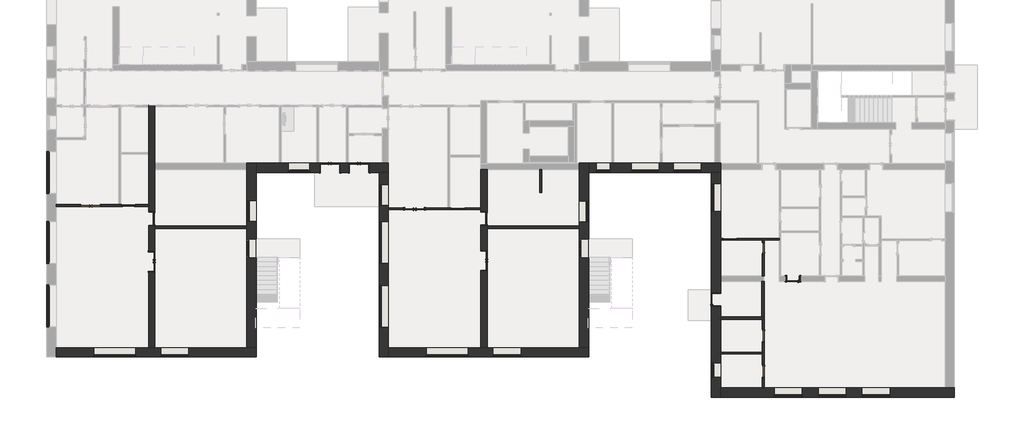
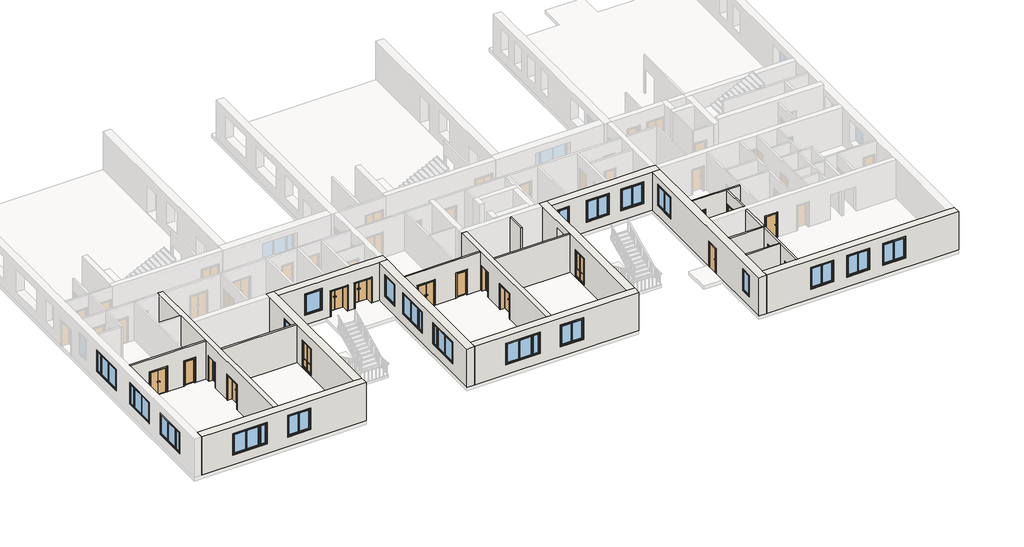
# One storey, part 1 of 10: 22 walls, 21 windows, 18 doors.
"""IFC4 building model written with IfcOpenShell, lengths in millimetres."""

from ifc_helpers import new_model, si_unit, origin, origin_with_axes, place, context, project, spatial, polyline, outline, extrude, faceted_brep, transform, mapped, element, save
from components import door_6ba15531, door_6cda5d05, door_47037448, door_ad1fb5ee, door_53f747c6, door_8eaac61e, door_ebb03b69, door_a4f02d3e, door_fa03cccf, door_70e842ad, door_428ffb38, window_17d24cb2, window_825c4489, window_d8f3b313, window_e44eff39, window_8fb4b093, window_74172d11

model = new_model("IFC4")

# Units and contexts
model_context = context("Model", 3, world=origin())
ifc_project = project(units=[si_unit("LENGTHUNIT", "METRE", prefix="MILLI")], contexts=[model_context])

# Site, building, storey
site = spatial("IfcSite", under=ifc_project)
building = spatial("IfcBuilding", under=site)
storey = spatial("IfcBuildingStorey", under=building, Name="1 этаж", Elevation=0.0)

# Doors
placement = place(None, origin())
door_shape = door_6ba15531(model_context)
element("IfcDoor", 1, ObjectType="Наружная дверь 2-Навесная - Один проем наружу с порогом - 31173-2003 : ДСН ДКН М2 2100-1300 ГОСТ 31173-2003", at=placement, inside=storey, context=model_context, shape_type="MappedRepresentation", body=[
    mapped(door_shape, transform((-9972.3240021, -6142.8629895, 0.0), x_axis=(0.0, 1.0, 0.0), y_axis=(-1.0, 0.0, 0.0), z_axis=(0.0, 0.0, 1.0))),
])
element("IfcDoor", 2, ObjectType="Наружная дверь 2-Навесная - Один проем наружу с порогом - 31173-2003 : ДСН ДКН М2 2100-1300 ГОСТ 31173-2003", at=placement, inside=storey, context=model_context, shape_type="MappedRepresentation", body=[
    mapped(door_shape, transform((-31612.3240021, -6185.3629895, 0.0), x_axis=(0.0, 1.0, 0.0), y_axis=(-1.0, 0.0, 0.0), z_axis=(0.0, 0.0, 1.0))),
])
door_2_shape = door_6cda5d05(model_context)
element("IfcDoor", 3, ObjectType="Наружная дверь 2-Навесная - Один проем наружу с порогом - 31173-2003 : ДСН ДКН М2 2100-1300 ГОСТ 31173-2003", at=placement, inside=storey, context=model_context, shape_type="MappedRepresentation", body=[
    mapped(door_2_shape, transform((-14497.3240021, -2742.8629895, 0.0), x_axis=(1.0, 0.0, 0.0), y_axis=(0.0, 1.0, 0.0), z_axis=(0.0, 0.0, 1.0))),
])
element("IfcDoor", 4, ObjectType="Наружная дверь 2-Навесная - Один проем наружу с порогом - 31173-2003 : ДСН ДКН М2 2100-1300 ГОСТ 31173-2003", at=placement, inside=storey, context=model_context, shape_type="MappedRepresentation", body=[
    mapped(door_2_shape, transform((-35599.8240021, -2532.8629895, 0.0), x_axis=(1.0, 0.0, 0.0), y_axis=(0.0, 1.0, 0.0), z_axis=(0.0, 0.0, 1.0))),
])
door_3_shape = door_47037448(model_context)
element("IfcDoor", 5, ObjectType="Наружная дверь 2-Навесная - Один проем наружу с порогом - 31173-2003 : ДСН ДКН М2 2100-1300 ГОСТ 31173-2003", at=placement, inside=storey, context=model_context, shape_type="MappedRepresentation", body=[
    mapped(door_3_shape, transform((-19994.7740021, -80.3629895, 0.0), x_axis=(-1.0, 0.0, 0.0), y_axis=(0.0, -1.0, 0.0), z_axis=(0.0, 0.0, 1.0))),
])
element("IfcDoor", 6, ObjectType="Наружная дверь 2-Навесная - Один проем наружу с порогом - 31173-2003 : ДСН ДКН М2 2100-1300 ГОСТ 31173-2003", at=placement, inside=storey, context=model_context, shape_type="MappedRepresentation", body=[
    mapped(door_3_shape, transform((-18094.8240021, -80.3629895, 0.0), x_axis=(-1.0, 0.0, 0.0), y_axis=(0.0, -1.0, 0.0), z_axis=(0.0, 0.0, 1.0))),
])
door_4_shape = door_ad1fb5ee(model_context)
element("IfcDoor", 7, ObjectType="Внутренняя дверь 1-Навесная - 30970-2002 : ДПВ Г Б Пр 2100-870 ГОСТ 30970-2002", at=placement, inside=storey, context=model_context, shape_type="MappedRepresentation", body=[
    mapped(door_4_shape, transform((-11659.8240021, -2733.8629895, 0.0), x_axis=(-1.0, 0.0, 0.0), y_axis=(0.0, -1.0, 0.0), z_axis=(0.0, 0.0, 1.0))),
])
element("IfcDoor", 8, ObjectType="Внутренняя дверь 1-Навесная - 30970-2002 : ДПВ Г Б Пр 2100-870 ГОСТ 30970-2002", at=placement, inside=storey, context=model_context, shape_type="MappedRepresentation", body=[
    mapped(door_4_shape, transform((-33119.8240021, -2523.8629895, 0.0), x_axis=(-1.0, 0.0, 0.0), y_axis=(0.0, -1.0, 0.0), z_axis=(0.0, 0.0, 1.0))),
])
door_5_shape = door_53f747c6(model_context)
element("IfcDoor", 9, ObjectType="Внутренняя дверь 1-Навесная - 30970-2002 : ДПВ Г Б Л 2100-870 ГОСТ 30970-2002", at=placement, inside=storey, context=model_context, shape_type="MappedRepresentation", body=[
    mapped(door_5_shape, transform((-9981.3240021, -3382.8629895, 0.0), x_axis=(0.0, -1.0, 0.0), y_axis=(1.0, 0.0, 0.0), z_axis=(0.0, 0.0, 1.0))),
])
element("IfcDoor", 10, ObjectType="Внутренняя дверь 1-Навесная - 30970-2002 : ДПВ Г Б Л 2100-870 ГОСТ 30970-2002", at=placement, inside=storey, context=model_context, shape_type="MappedRepresentation", body=[
    mapped(door_5_shape, transform((-31621.3240021, -3385.3629895, 0.0), x_axis=(0.0, -1.0, 0.0), y_axis=(1.0, 0.0, 0.0), z_axis=(0.0, 0.0, 1.0))),
])
door_6_shape = door_8eaac61e(model_context)
element("IfcDoor", 11, ObjectType="Внутренняя дверь 1-Навесная - 30970-2002 : ДПВ Г Б Пр 2100-870 ГОСТ 30970-2002", at=placement, inside=storey, context=model_context, shape_type="MappedRepresentation", body=[
    mapped(door_6_shape, transform((6042.6759979, -4736.3629895, 0.0), x_axis=(-1.0, 0.0, 0.0), y_axis=(0.0, -1.0, 0.0), z_axis=(0.0, 0.0, 1.0))),
])
door_7_shape = door_ebb03b69(model_context)
element("IfcDoor", 12, ObjectType="Внутренняя дверь 1-Навесная - 6629-88 : ДГ 21-9  ГОСТ 6629-88", at=placement, inside=storey, context=model_context, shape_type="MappedRepresentation", body=[
    mapped(door_7_shape, transform((10157.6759979, -7305.3629895, 0.0), x_axis=(-1.0, 0.0, 0.0), y_axis=(0.0, -1.0, 0.0), z_axis=(0.0, 0.0, 1.0))),
])
door_8_shape = door_a4f02d3e(model_context)
element("IfcDoor", 13, ObjectType="Внутренняя дверь 1-Навесная - 6629-88 : ДГ 21-8  ГОСТ 6629-88", at=placement, inside=storey, context=model_context, shape_type="MappedRepresentation", body=[
    mapped(door_8_shape, transform((8217.6759979, -5325.3629895, 0.0), x_axis=(0.0, 1.0, 0.0), y_axis=(-1.0, 0.0, 0.0), z_axis=(0.0, 0.0, 1.0))),
])
door_9_shape = door_fa03cccf(model_context)
element("IfcDoor", 14, ObjectType="Внутренняя дверь 1-Навесная - 6629-88 : ДГ 21-9Л  ГОСТ 6629-88", at=placement, inside=storey, context=model_context, shape_type="MappedRepresentation", body=[
    mapped(door_9_shape, transform((5142.6759979, -8670.3629895, 0.0), x_axis=(0.0, -1.0, 0.0), y_axis=(1.0, 0.0, 0.0), z_axis=(0.0, 0.0, 1.0))),
])
door_10_shape = door_70e842ad(model_context)
element("IfcDoor", 15, ObjectType="Внутренняя дверь 1-Навесная - 6629-88 : ДГ 21-9Л  ГОСТ 6629-88", at=placement, inside=storey, context=model_context, shape_type="MappedRepresentation", body=[
    mapped(door_10_shape, transform((8217.6759979, -11017.8629895, 0.0), x_axis=(0.0, 1.0, 0.0), y_axis=(-1.0, 0.0, 0.0), z_axis=(0.0, 0.0, 1.0))),
])
element("IfcDoor", 16, ObjectType="Внутренняя дверь 1-Навесная - 6629-88 : ДГ 21-9Л  ГОСТ 6629-88", at=placement, inside=storey, context=model_context, shape_type="MappedRepresentation", body=[
    mapped(door_10_shape, transform((8217.6759979, -13325.3629895, 0.0), x_axis=(0.0, 1.0, 0.0), y_axis=(-1.0, 0.0, 0.0), z_axis=(0.0, 0.0, 1.0))),
])
door_11_shape = door_428ffb38(model_context)
element("IfcDoor", 17, ObjectType="Балконная дверь 2-Распашная - Сдвоенные переплеты с остеклением - 11214-2003 : БД СП Д1 2175-1174-94 ГОСТ 11214-2003", at=placement, inside=storey, context=model_context, shape_type="MappedRepresentation", body=[
    mapped(door_11_shape, transform((-25107.3240021, -5340.3629895, 0.0), x_axis=(0.0, 1.0, 0.0), y_axis=(-1.0, 0.0, 0.0), z_axis=(0.0, 0.0, 1.0))),
])
element("IfcDoor", 18, ObjectType="Балконная дверь 2-Распашная - Сдвоенные переплеты с остеклением - 11214-2003 : БД СП Д1 2175-1174-94 ГОСТ 11214-2003", at=placement, inside=storey, context=model_context, shape_type="MappedRepresentation", body=[
    mapped(door_11_shape, transform((-3467.3240021, -5342.8629895, 0.0), x_axis=(0.0, 1.0, 0.0), y_axis=(-1.0, 0.0, 0.0), z_axis=(0.0, 0.0, 1.0))),
])

# Walls
element("IfcWall", 19, ObjectType="ADSK_Внутренняя_Кирпич_610", at=placement, inside=storey, context=model_context, shape_type="Brep", body=[
    faceted_brep([(-37832.3240021, -12415.3629895, 0.0), (-24802.3240021, -12415.3629895, 0.0), (-24802.3240021, -12415.3629895, 3200.0), (-35377.3240021, -12415.3629895, 3200.0), (-37832.3240021, -12415.3629895, 3200.0), (-32647.3240021, -12415.3629895, 800.0), (-35377.3240021, -12415.3629895, 800.0), (-35377.3240021, -12415.3629895, 2620.0), (-32647.3240021, -12415.3629895, 2620.0), (-29197.3240021, -12415.3629895, 800.0), (-31027.3240021, -12415.3629895, 800.0), (-31027.3240021, -12415.3629895, 2620.0), (-29197.3240021, -12415.3629895, 2620.0), (-37832.3240021, -11805.3629895, 0.0), (-37832.3240021, -11805.3629895, 3200.0), (-31812.3240021, -11805.3629895, 3200.0), (-31412.3240021, -11805.3629895, 3200.0), (-25412.3240021, -11805.3629895, 3200.0), (-24802.3240021, -11805.3629895, 3200.0), (-24802.3240021, -11805.3629895, 0.0), (-25412.3240021, -11805.3629895, 0.0), (-31412.3240021, -11805.3629895, 0.0), (-31812.3240021, -11805.3629895, 0.0), (-32647.3240021, -11805.3629895, 800.0), (-32647.3240021, -11805.3629895, 2620.0), (-35377.3240021, -11805.3629895, 2620.0), (-35377.3240021, -11805.3629895, 800.0), (-29197.3240021, -11805.3629895, 800.0), (-29197.3240021, -11805.3629895, 2620.0), (-31027.3240021, -11805.3629895, 2620.0), (-31027.3240021, -11805.3629895, 800.0)], [[[0, 1, 2, 3, 4], [5, 6, 7, 8], [9, 10, 11, 12]], [[13, 14, 15, 16, 17, 18, 19, 20, 21, 22], [23, 24, 25, 26], [27, 28, 29, 30]], [[1, 0, 13, 22, 21, 20, 19]], [[0, 4, 14, 13]], [[2, 1, 19, 18]], [[24, 23, 5, 8]], [[25, 24, 8, 7]], [[26, 25, 7, 6]], [[23, 26, 6, 5]], [[28, 27, 9, 12]], [[29, 28, 12, 11]], [[30, 29, 11, 10]], [[27, 30, 10, 9]], [[4, 3, 2, 18, 17, 16, 15, 14]]]),
])
element("IfcWall", 20, ObjectType="ADSK_Внутренняя_Кирпич_610", at=placement, inside=storey, context=model_context, shape_type="Brep", body=[
    faceted_brep([(-24802.3240021, -11805.3629895, 0.0), (-24802.3240021, -385.3629895, 0.0), (-24802.3240021, 224.6370105, 0.0), (-24802.3240021, 224.6370105, 3200.0), (-24802.3240021, -385.3629895, 3200.0), (-24802.3240021, -11805.3629895, 3200.0), (-24802.3240021, -3590.3629895, 800.0), (-24802.3240021, -3590.3629895, 2620.0), (-24802.3240021, -2210.3629895, 2620.0), (-24802.3240021, -2210.3629895, 800.0), (-24802.3240021, -5957.3629895, 100.0), (-24802.3240021, -5957.3629895, 2335.0), (-24802.3240021, -4723.3629895, 2335.0), (-24802.3240021, -4723.3629895, 100.0), (-25412.3240021, -11805.3629895, 0.0), (-25412.3240021, -11805.3629895, 3200.0), (-25412.3240021, -195.3629895, 3200.0), (-25412.3240021, 224.6370105, 3200.0), (-25412.3240021, 224.6370105, 0.0), (-25412.3240021, -195.3629895, 0.0), (-25412.3240021, -3590.3629895, 800.0), (-25412.3240021, -2210.3629895, 800.0), (-25412.3240021, -2210.3629895, 2620.0), (-25412.3240021, -3590.3629895, 2620.0), (-25412.3240021, -5957.3629895, 100.0), (-25412.3240021, -4723.3629895, 100.0), (-25412.3240021, -4723.3629895, 2335.0), (-25412.3240021, -5957.3629895, 2335.0)], [[[0, 1, 2, 3, 4, 5], [6, 7, 8, 9], [10, 11, 12, 13]], [[14, 15, 16, 17, 18, 19], [20, 21, 22, 23], [24, 25, 26, 27]], [[2, 1, 0, 14, 19, 18]], [[0, 5, 15, 14]], [[3, 2, 18, 17]], [[7, 6, 20, 23]], [[8, 7, 23, 22]], [[9, 8, 22, 21]], [[6, 9, 21, 20]], [[11, 10, 24, 27]], [[12, 11, 27, 26]], [[13, 12, 26, 25]], [[10, 13, 25, 24]], [[5, 4, 3, 17, 16, 15]]]),
])
element("IfcWall", 21, ObjectType="ADSK_Внутренняя_Кирпич_610", at=placement, inside=storey, context=model_context, shape_type="Brep", body=[
    faceted_brep([(-24802.3240021, -385.3629895, 3200.0), (-24802.3240021, -385.3629895, 0.0), (-20664.7740021, -385.3629895, 0.0), (-20664.7740021, -385.3629895, 2120.0), (-19324.7740021, -385.3629895, 2120.0), (-19324.7740021, -385.3629895, 0.0), (-18764.8240021, -385.3629895, 0.0), (-18764.8240021, -385.3629895, 2120.0), (-17424.8240021, -385.3629895, 2120.0), (-17424.8240021, -385.3629895, 0.0), (-16802.3240021, -385.3629895, 0.0), (-16192.3240021, -385.3629895, 0.0), (-16192.3240021, -385.3629895, 3200.0), (-16802.3240021, -385.3629895, 3200.0), (-22704.7990021, -385.3629895, 800.0), (-22704.7990021, -385.3629895, 2620.0), (-21324.7990021, -385.3629895, 2620.0), (-21324.7990021, -385.3629895, 800.0), (-24802.3240021, 224.6370105, 3200.0), (-23297.3240021, 224.6370105, 3200.0), (-23172.3240021, 224.6370105, 3200.0), (-20857.2740021, 224.6370105, 3200.0), (-20732.2740021, 224.6370105, 3200.0), (-18937.3240021, 224.6370105, 3200.0), (-18812.3240021, 224.6370105, 3200.0), (-16592.3240021, 224.6370105, 3200.0), (-16192.3240021, 224.6370105, 3200.0), (-16192.3240021, 224.6370105, 0.0), (-16592.3240021, 224.6370105, 0.0), (-17424.8240021, 224.6370105, 0.0), (-17424.8240021, 224.6370105, 2120.0), (-18764.8240021, 224.6370105, 2120.0), (-18764.8240021, 224.6370105, 0.0), (-18812.3240021, 224.6370105, 0.0), (-18937.3240021, 224.6370105, 0.0), (-19324.7740021, 224.6370105, 0.0), (-19324.7740021, 224.6370105, 2120.0), (-20664.7740021, 224.6370105, 2120.0), (-20664.7740021, 224.6370105, 0.0), (-20732.2740021, 224.6370105, 0.0), (-20857.2740021, 224.6370105, 0.0), (-23172.3240021, 224.6370105, 0.0), (-23297.3240021, 224.6370105, 0.0), (-24802.3240021, 224.6370105, 0.0), (-22704.7990021, 224.6370105, 800.0), (-21324.7990021, 224.6370105, 800.0), (-21324.7990021, 224.6370105, 2620.0), (-22704.7990021, 224.6370105, 2620.0)], [[[0, 1, 2, 3, 4, 5, 6, 7, 8, 9, 10, 11, 12, 13], [14, 15, 16, 17]], [[18, 19, 20, 21, 22, 23, 24, 25, 26, 27, 28, 29, 30, 31, 32, 33, 34, 35, 36, 37, 38, 39, 40, 41, 42, 43], [44, 45, 46, 47]], [[1, 43, 42, 41, 40, 39, 38, 2]], [[27, 11, 10, 9, 29, 28]], [[5, 35, 34, 33, 32, 6]], [[1, 0, 18, 43]], [[12, 11, 27, 26]], [[37, 3, 2, 38]], [[3, 37, 36, 4]], [[4, 36, 35, 5]], [[31, 7, 6, 32]], [[7, 31, 30, 8]], [[8, 30, 29, 9]], [[15, 14, 44, 47]], [[16, 15, 47, 46]], [[17, 16, 46, 45]], [[14, 17, 45, 44]], [[26, 25, 24, 23, 22, 21, 20, 19, 18, 0, 13, 12]]]),
])
element("IfcWall", 22, ObjectType="ADSK_Внутренняя_Кирпич_610", at=placement, inside=storey, context=model_context, shape_type="Brep", body=[
    faceted_brep([(-16802.3240021, -385.3629895, 0.0), (-16802.3240021, -12415.3629895, 0.0), (-16802.3240021, -12415.3629895, 3200.0), (-16802.3240021, -385.3629895, 3200.0), (-16802.3240021, -7745.3629895, 800.0), (-16802.3240021, -7745.3629895, 2620.0), (-16802.3240021, -10475.3629895, 2620.0), (-16802.3240021, -10475.3629895, 800.0), (-16802.3240021, -6307.8629895, 800.0), (-16802.3240021, -3577.8629895, 800.0), (-16802.3240021, -3577.8629895, 2620.0), (-16802.3240021, -6307.8629895, 2620.0), (-16802.3240021, -2532.8629895, 800.0), (-16802.3240021, -1152.8629895, 800.0), (-16802.3240021, -1152.8629895, 2620.0), (-16802.3240021, -2532.8629895, 2620.0), (-16192.3240021, -385.3629895, 0.0), (-16192.3240021, -385.3629895, 3200.0), (-16192.3240021, -2680.3629895, 3200.0), (-16192.3240021, -2805.3629895, 3200.0), (-16192.3240021, -11805.3629895, 3200.0), (-16192.3240021, -12415.3629895, 3200.0), (-16192.3240021, -12415.3629895, 0.0), (-16192.3240021, -11805.3629895, 0.0), (-16192.3240021, -2805.3629895, 0.0), (-16192.3240021, -2680.3629895, 0.0), (-16192.3240021, -7745.3629895, 800.0), (-16192.3240021, -10475.3629895, 800.0), (-16192.3240021, -10475.3629895, 2620.0), (-16192.3240021, -7745.3629895, 2620.0), (-16192.3240021, -6307.8629895, 800.0), (-16192.3240021, -6307.8629895, 2620.0), (-16192.3240021, -3577.8629895, 2620.0), (-16192.3240021, -3577.8629895, 800.0), (-16192.3240021, -2532.8629895, 800.0), (-16192.3240021, -2532.8629895, 2620.0), (-16192.3240021, -1152.8629895, 2620.0), (-16192.3240021, -1152.8629895, 800.0)], [[[0, 1, 2, 3], [4, 5, 6, 7], [8, 9, 10, 11], [12, 13, 14, 15]], [[16, 17, 18, 19, 20, 21, 22, 23, 24, 25], [26, 27, 28, 29], [30, 31, 32, 33], [34, 35, 36, 37]], [[1, 0, 16, 25, 24, 23, 22]], [[0, 3, 17, 16]], [[2, 1, 22, 21]], [[5, 4, 26, 29]], [[6, 5, 29, 28]], [[7, 6, 28, 27]], [[4, 7, 27, 26]], [[31, 30, 8, 11]], [[32, 31, 11, 10]], [[33, 32, 10, 9]], [[30, 33, 9, 8]], [[35, 34, 12, 15]], [[36, 35, 15, 14]], [[37, 36, 14, 13]], [[34, 37, 13, 12]], [[3, 2, 21, 20, 19, 18, 17]]]),
])
element("IfcWall", 23, ObjectType="ADSK_Внутренняя_Кирпич_610", at=placement, inside=storey, context=model_context, shape_type="Brep", body=[
    faceted_brep([(-16192.3240021, -12415.3629895, 0.0), (-3162.3240021, -12415.3629895, 0.0), (-3162.3240021, -12415.3629895, 3200.0), (-16192.3240021, -12415.3629895, 3200.0), (-11007.3240021, -12415.3629895, 800.0), (-13737.3240021, -12415.3629895, 800.0), (-13737.3240021, -12415.3629895, 2620.0), (-11007.3240021, -12415.3629895, 2620.0), (-7557.3240021, -12415.3629895, 800.0), (-9387.3240021, -12415.3629895, 800.0), (-9387.3240021, -12415.3629895, 2620.0), (-7557.3240021, -12415.3629895, 2620.0), (-16192.3240021, -11805.3629895, 0.0), (-16192.3240021, -11805.3629895, 3200.0), (-10172.3240021, -11805.3629895, 3200.0), (-9772.3240021, -11805.3629895, 3200.0), (-3772.3240021, -11805.3629895, 3200.0), (-3162.3240021, -11805.3629895, 3200.0), (-3162.3240021, -11805.3629895, 0.0), (-3772.3240021, -11805.3629895, 0.0), (-9772.3240021, -11805.3629895, 0.0), (-10172.3240021, -11805.3629895, 0.0), (-11007.3240021, -11805.3629895, 800.0), (-11007.3240021, -11805.3629895, 2620.0), (-13737.3240021, -11805.3629895, 2620.0), (-13737.3240021, -11805.3629895, 800.0), (-7557.3240021, -11805.3629895, 800.0), (-7557.3240021, -11805.3629895, 2620.0), (-9387.3240021, -11805.3629895, 2620.0), (-9387.3240021, -11805.3629895, 800.0)], [[[0, 1, 2, 3], [4, 5, 6, 7], [8, 9, 10, 11]], [[12, 13, 14, 15, 16, 17, 18, 19, 20, 21], [22, 23, 24, 25], [26, 27, 28, 29]], [[1, 0, 12, 21, 20, 19, 18]], [[0, 3, 13, 12]], [[2, 1, 18, 17]], [[23, 22, 4, 7]], [[24, 23, 7, 6]], [[25, 24, 6, 5]], [[22, 25, 5, 4]], [[27, 26, 8, 11]], [[28, 27, 11, 10]], [[29, 28, 10, 9]], [[26, 29, 9, 8]], [[3, 2, 17, 16, 15, 14, 13]]]),
])
element("IfcWall", 24, ObjectType="ADSK_Внутренняя_Кирпич_610", at=placement, inside=storey, context=model_context, shape_type="Brep", body=[
    faceted_brep([(-3162.3240021, -11805.3629895, 0.0), (-3162.3240021, -385.3629895, 0.0), (-3162.3240021, 224.6370105, 0.0), (-3162.3240021, 224.6370105, 3200.0), (-3162.3240021, -385.3629895, 3200.0), (-3162.3240021, -11805.3629895, 3200.0), (-3162.3240021, -3612.8629895, 800.0), (-3162.3240021, -3612.8629895, 2620.0), (-3162.3240021, -2232.8629895, 2620.0), (-3162.3240021, -2232.8629895, 800.0), (-3162.3240021, -5959.8629895, 100.0), (-3162.3240021, -5959.8629895, 2335.0), (-3162.3240021, -4725.8629895, 2335.0), (-3162.3240021, -4725.8629895, 100.0), (-3772.3240021, -11805.3629895, 0.0), (-3772.3240021, -11805.3629895, 3200.0), (-3772.3240021, -4015.3629895, 3200.0), (-3772.3240021, -3870.3629895, 3200.0), (-3772.3240021, -195.3629895, 3200.0), (-3772.3240021, 204.6370105, 3200.0), (-3772.3240021, 224.6370105, 3200.0), (-3772.3240021, 224.6370105, 0.0), (-3772.3240021, 204.6370105, 0.0), (-3772.3240021, -195.3629895, 0.0), (-3772.3240021, -3870.3629895, 0.0), (-3772.3240021, -4015.3629895, 0.0), (-3772.3240021, -3612.8629895, 800.0), (-3772.3240021, -2232.8629895, 800.0), (-3772.3240021, -2232.8629895, 2620.0), (-3772.3240021, -3612.8629895, 2620.0), (-3772.3240021, -5959.8629895, 100.0), (-3772.3240021, -4725.8629895, 100.0), (-3772.3240021, -4725.8629895, 2335.0), (-3772.3240021, -5959.8629895, 2335.0)], [[[0, 1, 2, 3, 4, 5], [6, 7, 8, 9], [10, 11, 12, 13]], [[14, 15, 16, 17, 18, 19, 20, 21, 22, 23, 24, 25], [26, 27, 28, 29], [30, 31, 32, 33]], [[2, 1, 0, 14, 25, 24, 23, 22, 21]], [[0, 5, 15, 14]], [[3, 2, 21, 20]], [[7, 6, 26, 29]], [[8, 7, 29, 28]], [[9, 8, 28, 27]], [[6, 9, 27, 26]], [[11, 10, 30, 33]], [[12, 11, 33, 32]], [[13, 12, 32, 31]], [[10, 13, 31, 30]], [[5, 4, 3, 20, 19, 18, 17, 16, 15]]]),
])
element("IfcWall", 25, ObjectType="ADSK_Внутренняя_Кирпич_610", at=placement, inside=storey, context=model_context, shape_type="Brep", body=[
    faceted_brep([(-3162.3240021, -385.3629895, 0.0), (4837.6759979, -385.3629895, 0.0), (5447.6759979, -385.3629895, 0.0), (5447.6759979, -385.3629895, 3200.0), (4837.6759979, -385.3629895, 3200.0), (-3162.3240021, -385.3629895, 3200.0), (-2662.3240021, -385.3629895, 800.0), (-2662.3240021, -385.3629895, 2620.0), (-1732.3240021, -385.3629895, 2620.0), (-1732.3240021, -385.3629895, 800.0), (4177.6759979, -385.3629895, 800.0), (2347.6759979, -385.3629895, 800.0), (2347.6759979, -385.3629895, 2620.0), (4177.6759979, -385.3629895, 2620.0), (1437.6759979, -385.3629895, 800.0), (-392.3240021, -385.3629895, 800.0), (-392.3240021, -385.3629895, 2620.0), (1437.6759979, -385.3629895, 2620.0), (-3162.3240021, 224.6370105, 0.0), (-3162.3240021, 224.6370105, 3200.0), (-1639.8240021, 224.6370105, 3200.0), (-1514.8240021, 224.6370105, 3200.0), (1520.1759979, 224.6370105, 3200.0), (1645.1759979, 224.6370105, 3200.0), (5047.6759979, 224.6370105, 3200.0), (5427.6759979, 224.6370105, 3200.0), (5447.6759979, 224.6370105, 3200.0), (5447.6759979, 224.6370105, 0.0), (5427.6759979, 224.6370105, 0.0), (5047.6759979, 224.6370105, 0.0), (1645.1759979, 224.6370105, 0.0), (1520.1759979, 224.6370105, 0.0), (-1514.8240021, 224.6370105, 0.0), (-1639.8240021, 224.6370105, 0.0), (-2662.3240021, 224.6370105, 800.0), (-1732.3240021, 224.6370105, 800.0), (-1732.3240021, 224.6370105, 2620.0), (-2662.3240021, 224.6370105, 2620.0), (4177.6759979, 224.6370105, 800.0), (4177.6759979, 224.6370105, 2620.0), (2347.6759979, 224.6370105, 2620.0), (2347.6759979, 224.6370105, 800.0), (1437.6759979, 224.6370105, 800.0), (1437.6759979, 224.6370105, 2620.0), (-392.3240021, 224.6370105, 2620.0), (-392.3240021, 224.6370105, 800.0), (5447.6759979, 204.6370105, 0.0), (5447.6759979, -175.3629895, 0.0), (5447.6759979, 204.6370105, 3200.0), (5447.6759979, -175.3629895, 3200.0)], [[[0, 1, 2, 3, 4, 5], [6, 7, 8, 9], [10, 11, 12, 13], [14, 15, 16, 17]], [[18, 19, 20, 21, 22, 23, 24, 25, 26, 27, 28, 29, 30, 31, 32, 33], [34, 35, 36, 37], [38, 39, 40, 41], [42, 43, 44, 45]], [[2, 1, 0, 18, 33, 32, 31, 30, 29, 28, 27, 46, 47]], [[0, 5, 19, 18]], [[3, 2, 47, 46, 27, 26, 48, 49]], [[7, 6, 34, 37]], [[8, 7, 37, 36]], [[9, 8, 36, 35]], [[6, 9, 35, 34]], [[39, 38, 10, 13]], [[40, 39, 13, 12]], [[41, 40, 12, 11]], [[38, 41, 11, 10]], [[43, 42, 14, 17]], [[44, 43, 17, 16]], [[45, 44, 16, 15]], [[42, 45, 15, 14]], [[5, 4, 3, 49, 48, 26, 25, 24, 23, 22, 21, 20, 19]]]),
])
element("IfcWall", 26, ObjectType="ADSK_Внутренняя_Кирпич_610", at=placement, inside=storey, context=model_context, shape_type="Brep", body=[
    faceted_brep([(4837.6759979, -385.3629895, 3200.0), (4837.6759979, -385.3629895, 0.0), (4837.6759979, -8215.3629895, 0.0), (4837.6759979, -8215.3629895, 2070.0), (4837.6759979, -9125.3629895, 2070.0), (4837.6759979, -9125.3629895, 0.0), (4837.6759979, -15025.3629895, 0.0), (4837.6759979, -15025.3629895, 3200.0), (4837.6759979, -12800.3629895, 800.0), (4837.6759979, -12800.3629895, 2620.0), (4837.6759979, -13730.3629895, 2620.0), (4837.6759979, -13730.3629895, 800.0), (4837.6759979, -2935.3629895, 800.0), (4837.6759979, -1105.3629895, 800.0), (4837.6759979, -1105.3629895, 2620.0), (4837.6759979, -2935.3629895, 2620.0), (5447.6759979, -385.3629895, 0.0), (5447.6759979, -385.3629895, 3200.0), (5447.6759979, -4695.3629895, 3200.0), (5447.6759979, -4795.3629895, 3200.0), (5447.6759979, -7115.3629895, 3200.0), (5447.6759979, -7495.3629895, 3200.0), (5447.6759979, -9795.3629895, 3200.0), (5447.6759979, -9945.3629895, 3200.0), (5447.6759979, -12115.3629895, 3200.0), (5447.6759979, -12215.3629895, 3200.0), (5447.6759979, -14415.3629895, 3200.0), (5447.6759979, -15025.3629895, 3200.0), (5447.6759979, -15025.3629895, 0.0), (5447.6759979, -14415.3629895, 0.0), (5447.6759979, -12215.3629895, 0.0), (5447.6759979, -12115.3629895, 0.0), (5447.6759979, -9945.3629895, 0.0), (5447.6759979, -9795.3629895, 0.0), (5447.6759979, -9125.3629895, 0.0), (5447.6759979, -9125.3629895, 2070.0), (5447.6759979, -8215.3629895, 2070.0), (5447.6759979, -8215.3629895, 0.0), (5447.6759979, -7495.3629895, 0.0), (5447.6759979, -7115.3629895, 0.0), (5447.6759979, -4795.3629895, 0.0), (5447.6759979, -4695.3629895, 0.0), (5447.6759979, -12800.3629895, 800.0), (5447.6759979, -13730.3629895, 800.0), (5447.6759979, -13730.3629895, 2620.0), (5447.6759979, -12800.3629895, 2620.0), (5447.6759979, -2935.3629895, 800.0), (5447.6759979, -2935.3629895, 2620.0), (5447.6759979, -1105.3629895, 2620.0), (5447.6759979, -1105.3629895, 800.0)], [[[0, 1, 2, 3, 4, 5, 6, 7], [8, 9, 10, 11], [12, 13, 14, 15]], [[16, 17, 18, 19, 20, 21, 22, 23, 24, 25, 26, 27, 28, 29, 30, 31, 32, 33, 34, 35, 36, 37, 38, 39, 40, 41], [42, 43, 44, 45], [46, 47, 48, 49]], [[1, 16, 41, 40, 39, 38, 37, 2]], [[28, 6, 5, 34, 33, 32, 31, 30, 29]], [[1, 0, 17, 16]], [[7, 6, 28, 27]], [[4, 35, 34, 5]], [[35, 4, 3, 36]], [[36, 3, 2, 37]], [[9, 8, 42, 45]], [[10, 9, 45, 44]], [[11, 10, 44, 43]], [[8, 11, 43, 42]], [[47, 46, 12, 15]], [[48, 47, 15, 14]], [[49, 48, 14, 13]], [[46, 49, 13, 12]], [[17, 0, 7, 27, 26, 25, 24, 23, 22, 21, 20, 19, 18]]]),
])
element("IfcWall", 27, ObjectType="ADSK_Внутренняя_Кирпич_610", at=placement, inside=storey, context=model_context, shape_type="Brep", body=[
    faceted_brep([(5447.6759979, -15025.3629895, 0.0), (20667.6759979, -15025.3629895, 0.0), (20667.6759979, -15025.3629895, 3200.0), (5447.6759979, -15025.3629895, 3200.0), (16477.6759979, -15025.3629895, 800.0), (14647.6759979, -15025.3629895, 800.0), (14647.6759979, -15025.3629895, 2620.0), (16477.6759979, -15025.3629895, 2620.0), (13637.6759979, -15025.3629895, 800.0), (11807.6759979, -15025.3629895, 800.0), (11807.6759979, -15025.3629895, 2620.0), (13637.6759979, -15025.3629895, 2620.0), (10772.6759979, -15025.3629895, 800.0), (8942.6759979, -15025.3629895, 800.0), (8942.6759979, -15025.3629895, 2620.0), (10772.6759979, -15025.3629895, 2620.0), (5447.6759979, -14415.3629895, 0.0), (5447.6759979, -14415.3629895, 3200.0), (8167.6759979, -14415.3629895, 3200.0), (8267.6759979, -14415.3629895, 3200.0), (20057.6759979, -14415.3629895, 3200.0), (20667.6759979, -14415.3629895, 3200.0), (20667.6759979, -14415.3629895, 0.0), (20057.6759979, -14415.3629895, 0.0), (8267.6759979, -14415.3629895, 0.0), (8167.6759979, -14415.3629895, 0.0), (16477.6759979, -14415.3629895, 800.0), (16477.6759979, -14415.3629895, 2620.0), (14647.6759979, -14415.3629895, 2620.0), (14647.6759979, -14415.3629895, 800.0), (13637.6759979, -14415.3629895, 800.0), (13637.6759979, -14415.3629895, 2620.0), (11807.6759979, -14415.3629895, 2620.0), (11807.6759979, -14415.3629895, 800.0), (10772.6759979, -14415.3629895, 800.0), (10772.6759979, -14415.3629895, 2620.0), (8942.6759979, -14415.3629895, 2620.0), (8942.6759979, -14415.3629895, 800.0)], [[[0, 1, 2, 3], [4, 5, 6, 7], [8, 9, 10, 11], [12, 13, 14, 15]], [[16, 17, 18, 19, 20, 21, 22, 23, 24, 25], [26, 27, 28, 29], [30, 31, 32, 33], [34, 35, 36, 37]], [[1, 0, 16, 25, 24, 23, 22]], [[0, 3, 17, 16]], [[2, 1, 22, 21]], [[27, 26, 4, 7]], [[28, 27, 7, 6]], [[29, 28, 6, 5]], [[26, 29, 5, 4]], [[31, 30, 8, 11]], [[32, 31, 11, 10]], [[33, 32, 10, 9]], [[30, 33, 9, 8]], [[35, 34, 12, 15]], [[36, 35, 15, 14]], [[37, 36, 14, 13]], [[34, 37, 13, 12]], [[3, 2, 21, 20, 19, 18, 17]]]),
])
element("IfcWall", 28, ObjectType="ADSK_Внутренняя_Кирпич_380+20", at=placement, inside=storey, context=model_context, shape_type="Brep", body=[
    faceted_brep([(-31412.3240021, -11805.3629895, 3200.0), (-31412.3240021, -11805.3629895, 0.0), (-31412.3240021, -6855.3629895, 0.0), (-31412.3240021, -6855.3629895, 2120.0), (-31412.3240021, -5515.3629895, 2120.0), (-31412.3240021, -5515.3629895, 0.0), (-31412.3240021, -3870.3629895, 0.0), (-31412.3240021, -3870.3629895, 2150.0), (-31412.3240021, -2900.3629895, 2150.0), (-31412.3240021, -2900.3629895, 0.0), (-31412.3240021, -195.3629895, 0.0), (-31412.3240021, 224.6370105, 0.0), (-31412.3240021, 3899.6370105, 0.0), (-31412.3240021, 4024.6370105, 0.0), (-31412.3240021, 4024.6370105, 3200.0), (-31412.3240021, 3899.6370105, 3200.0), (-31412.3240021, 224.6370105, 3200.0), (-31412.3240021, -195.3629895, 3200.0), (-31812.3240021, -11805.3629895, 0.0), (-31812.3240021, -11805.3629895, 3200.0), (-31812.3240021, 829.6370105, 3200.0), (-31812.3240021, 929.6370105, 3200.0), (-31812.3240021, 3889.6370105, 3200.0), (-31812.3240021, 4024.6370105, 3200.0), (-31812.3240021, 4024.6370105, 0.0), (-31812.3240021, 3889.6370105, 0.0), (-31812.3240021, 929.6370105, 0.0), (-31812.3240021, 829.6370105, 0.0), (-31812.3240021, -2900.3629895, 0.0), (-31812.3240021, -2900.3629895, 2150.0), (-31812.3240021, -3870.3629895, 2150.0), (-31812.3240021, -3870.3629895, 0.0), (-31812.3240021, -5515.3629895, 0.0), (-31812.3240021, -5515.3629895, 2120.0), (-31812.3240021, -6855.3629895, 2120.0), (-31812.3240021, -6855.3629895, 0.0)], [[[0, 1, 2, 3, 4, 5, 6, 7, 8, 9, 10, 11, 12, 13, 14, 15, 16, 17]], [[18, 19, 20, 21, 22, 23, 24, 25, 26, 27, 28, 29, 30, 31, 32, 33, 34, 35]], [[1, 18, 35, 2]], [[24, 13, 12, 11, 10, 9, 28, 27, 26, 25]], [[31, 6, 5, 32]], [[1, 0, 19, 18]], [[14, 13, 24, 23]], [[30, 7, 6, 31]], [[7, 30, 29, 8]], [[8, 29, 28, 9]], [[4, 33, 32, 5]], [[33, 4, 3, 34]], [[34, 3, 2, 35]], [[0, 17, 16, 15, 14, 23, 22, 21, 20, 19]]]),
])
element("IfcWall", 29, ObjectType="ADSK_Внутренняя_Кирпич_380+20", at=placement, inside=storey, context=model_context, shape_type="Brep", body=[
    faceted_brep([(-10172.3240021, -195.3629895, 3200.0), (-10172.3240021, -195.3629895, 0.0), (-10172.3240021, -2680.3629895, 0.0), (-10172.3240021, -2805.3629895, 0.0), (-10172.3240021, -2897.8629895, 0.0), (-10172.3240021, -2897.8629895, 2150.0), (-10172.3240021, -3867.8629895, 2150.0), (-10172.3240021, -3867.8629895, 0.0), (-10172.3240021, -5472.8629895, 0.0), (-10172.3240021, -5472.8629895, 2120.0), (-10172.3240021, -6812.8629895, 2120.0), (-10172.3240021, -6812.8629895, 0.0), (-10172.3240021, -11805.3629895, 0.0), (-10172.3240021, -11805.3629895, 3200.0), (-10172.3240021, -2805.3629895, 3200.0), (-10172.3240021, -2680.3629895, 3200.0), (-9772.3240021, -195.3629895, 0.0), (-9772.3240021, -195.3629895, 3200.0), (-9772.3240021, -3870.3629895, 3200.0), (-9772.3240021, -4015.3629895, 3200.0), (-9772.3240021, -11805.3629895, 3200.0), (-9772.3240021, -11805.3629895, 0.0), (-9772.3240021, -6812.8629895, 0.0), (-9772.3240021, -6812.8629895, 2120.0), (-9772.3240021, -5472.8629895, 2120.0), (-9772.3240021, -5472.8629895, 0.0), (-9772.3240021, -4015.3629895, 0.0), (-9772.3240021, -3870.3629895, 0.0), (-9772.3240021, -3867.8629895, 0.0), (-9772.3240021, -3867.8629895, 2150.0), (-9772.3240021, -2897.8629895, 2150.0), (-9772.3240021, -2897.8629895, 0.0)], [[[0, 1, 2, 3, 4, 5, 6, 7, 8, 9, 10, 11, 12, 13, 14, 15]], [[16, 17, 18, 19, 20, 21, 22, 23, 24, 25, 26, 27, 28, 29, 30, 31]], [[1, 16, 31, 4, 3, 2]], [[21, 12, 11, 22]], [[25, 8, 7, 28, 27, 26]], [[1, 0, 17, 16]], [[13, 12, 21, 20]], [[24, 9, 8, 25]], [[9, 24, 23, 10]], [[10, 23, 22, 11]], [[6, 29, 28, 7]], [[29, 6, 5, 30]], [[30, 5, 4, 31]], [[0, 15, 14, 13, 20, 19, 18, 17]]]),
])
element("IfcWall", 30, ObjectType="ADSK_Внутренняя_Перегородка_125+10х2", at=placement, inside=storey, context=model_context, shape_type="SweptSolid", body=[
    extrude(outline(polyline([(-31412.3240021, -3870.3629895), (-25412.3240021, -3870.3629895), (-25412.3240021, -4015.3629895), (-31412.3240021, -4015.3629895), (-31412.3240021, -3870.3629895)])), origin_with_axes(), (0.0, 0.0, 1.0), 3200.0),
])
element("IfcWall", 31, ObjectType="ADSK_Внутренняя_Перегородка_25_75_25", at=placement, inside=storey, context=model_context, shape_type="Brep", body=[
    faceted_brep([(-31812.3240021, -2595.3629895, 0.0), (-31812.3240021, -2595.3629895, 3200.0), (-37832.3240021, -2595.3629895, 3200.0), (-37832.3240021, -2595.3629895, 0.0), (-36269.8240021, -2595.3629895, 0.0), (-36269.8240021, -2595.3629895, 2120.0), (-34929.8240021, -2595.3629895, 2120.0), (-34929.8240021, -2595.3629895, 0.0), (-33604.8240021, -2595.3629895, 0.0), (-33604.8240021, -2595.3629895, 2150.0), (-32634.8240021, -2595.3629895, 2150.0), (-32634.8240021, -2595.3629895, 0.0), (-31812.3240021, -2470.3629895, 3200.0), (-31812.3240021, -2470.3629895, 0.0), (-32634.8240021, -2470.3629895, 0.0), (-32634.8240021, -2470.3629895, 2150.0), (-33604.8240021, -2470.3629895, 2150.0), (-33604.8240021, -2470.3629895, 0.0), (-33632.3240021, -2470.3629895, 0.0), (-33767.3240021, -2470.3629895, 0.0), (-34929.8240021, -2470.3629895, 0.0), (-34929.8240021, -2470.3629895, 2120.0), (-36269.8240021, -2470.3629895, 2120.0), (-36269.8240021, -2470.3629895, 0.0), (-37832.3240021, -2470.3629895, 0.0), (-37832.3240021, -2470.3629895, 3200.0), (-33767.3240021, -2470.3629895, 3200.0), (-33632.3240021, -2470.3629895, 3200.0)], [[[0, 1, 2, 3, 4, 5, 6, 7, 8, 9, 10, 11]], [[12, 13, 14, 15, 16, 17, 18, 19, 20, 21, 22, 23, 24, 25, 26, 27]], [[13, 0, 11, 14]], [[3, 24, 23, 4]], [[17, 8, 7, 20, 19, 18]], [[1, 0, 13, 12]], [[3, 2, 25, 24]], [[16, 9, 8, 17]], [[9, 16, 15, 10]], [[10, 15, 14, 11]], [[6, 21, 20, 7]], [[21, 6, 5, 22]], [[22, 5, 4, 23]], [[2, 1, 12, 27, 26, 25]]]),
])
element("IfcWall", 32, ObjectType="ADSK_Внутренняя_Перегородка_25_75_25", at=placement, inside=storey, context=model_context, shape_type="Brep", body=[
    faceted_brep([(-16192.3240021, -2680.3629895, 0.0), (-16192.3240021, -2680.3629895, 3200.0), (-12322.3240021, -2680.3629895, 3200.0), (-12197.3240021, -2680.3629895, 3200.0), (-10172.3240021, -2680.3629895, 3200.0), (-10172.3240021, -2680.3629895, 0.0), (-11174.8240021, -2680.3629895, 0.0), (-11174.8240021, -2680.3629895, 2150.0), (-12144.8240021, -2680.3629895, 2150.0), (-12144.8240021, -2680.3629895, 0.0), (-12197.3240021, -2680.3629895, 0.0), (-12322.3240021, -2680.3629895, 0.0), (-13827.3240021, -2680.3629895, 0.0), (-13827.3240021, -2680.3629895, 2120.0), (-15167.3240021, -2680.3629895, 2120.0), (-15167.3240021, -2680.3629895, 0.0), (-16192.3240021, -2805.3629895, 3200.0), (-16192.3240021, -2805.3629895, 0.0), (-15167.3240021, -2805.3629895, 0.0), (-15167.3240021, -2805.3629895, 2120.0), (-13827.3240021, -2805.3629895, 2120.0), (-13827.3240021, -2805.3629895, 0.0), (-12144.8240021, -2805.3629895, 0.0), (-12144.8240021, -2805.3629895, 2150.0), (-11174.8240021, -2805.3629895, 2150.0), (-11174.8240021, -2805.3629895, 0.0), (-10172.3240021, -2805.3629895, 0.0), (-10172.3240021, -2805.3629895, 3200.0)], [[[0, 1, 2, 3, 4, 5, 6, 7, 8, 9, 10, 11, 12, 13, 14, 15]], [[16, 17, 18, 19, 20, 21, 22, 23, 24, 25, 26, 27]], [[17, 0, 15, 18]], [[5, 26, 25, 6]], [[21, 12, 11, 10, 9, 22]], [[1, 0, 17, 16]], [[5, 4, 27, 26]], [[20, 13, 12, 21]], [[13, 20, 19, 14]], [[14, 19, 18, 15]], [[8, 23, 22, 9]], [[23, 8, 7, 24]], [[24, 7, 6, 25]], [[4, 3, 2, 1, 16, 27]]]),
])
element("IfcWall", 33, ObjectType="ADSK_Внутренняя_Перегородка_125+10х2", at=placement, inside=storey, context=model_context, shape_type="SweptSolid", body=[
    extrude(outline(polyline([(-3772.3240021, -4015.3629895), (-9772.3240021, -4015.3629895), (-9772.3240021, -3870.3629895), (-3772.3240021, -3870.3629895), (-3772.3240021, -4015.3629895)])), origin_with_axes(), (0.0, 0.0, 1.0), 3200.0),
])
element("IfcWall", 34, ObjectType="ADSK_Внутренняя_Перегородка_25_75_25", at=placement, inside=storey, context=model_context, shape_type="SweptSolid", body=[
    extrude(outline(polyline([(-6344.7740021, -1695.378097), (-6344.7740021, -195.3629895), (-6219.7740021, -195.3629895), (-6219.7740021, -1695.378097), (-6344.7740021, -1695.378097)])), origin_with_axes(), (0.0, 0.0, 1.0), 3200.0),
])
element("IfcWall", 35, ObjectType="ADSK_Внутренняя_Перегородка_100", at=placement, inside=storey, context=model_context, shape_type="Brep", body=[
    faceted_brep([(5447.6759979, -4695.3629895, 0.0), (5447.6759979, -4695.3629895, 3200.0), (9272.6759979, -4695.3629895, 3200.0), (9272.6759979, -4695.3629895, 0.0), (6527.6759979, -4695.3629895, 0.0), (6527.6759979, -4695.3629895, 2150.0), (5557.6759979, -4695.3629895, 2150.0), (5557.6759979, -4695.3629895, 0.0), (5447.6759979, -4795.3629895, 3200.0), (5447.6759979, -4795.3629895, 0.0), (5557.6759979, -4795.3629895, 0.0), (5557.6759979, -4795.3629895, 2150.0), (6527.6759979, -4795.3629895, 2150.0), (6527.6759979, -4795.3629895, 0.0), (8167.6759979, -4795.3629895, 0.0), (8267.6759979, -4795.3629895, 0.0), (9272.6759979, -4795.3629895, 0.0), (9272.6759979, -4795.3629895, 3200.0), (8267.6759979, -4795.3629895, 3200.0), (8167.6759979, -4795.3629895, 3200.0)], [[[0, 1, 2, 3, 4, 5, 6, 7]], [[8, 9, 10, 11, 12, 13, 14, 15, 16, 17, 18, 19]], [[3, 16, 15, 14, 13, 4]], [[9, 0, 7, 10]], [[1, 0, 9, 8]], [[3, 2, 17, 16]], [[6, 11, 10, 7]], [[11, 6, 5, 12]], [[12, 5, 4, 13]], [[2, 1, 8, 19, 18, 17]]]),
])
element("IfcWall", 36, ObjectType="ADSK_Внутренняя_Перегородка_100", at=placement, inside=storey, context=model_context, shape_type="Brep", body=[
    faceted_brep([(8167.6759979, -4795.3629895, 3200.0), (8167.6759979, -4795.3629895, 0.0), (8167.6759979, -4920.3629895, 0.0), (8167.6759979, -4920.3629895, 2070.0), (8167.6759979, -5730.3629895, 2070.0), (8167.6759979, -5730.3629895, 0.0), (8167.6759979, -7115.3629895, 0.0), (8167.6759979, -7115.3629895, 3200.0), (8267.6759979, -4795.3629895, 0.0), (8267.6759979, -4795.3629895, 3200.0), (8267.6759979, -7115.3629895, 3200.0), (8267.6759979, -7115.3629895, 0.0), (8267.6759979, -5730.3629895, 0.0), (8267.6759979, -5730.3629895, 2070.0), (8267.6759979, -4920.3629895, 2070.0), (8267.6759979, -4920.3629895, 0.0), (8262.6759979, -7115.3629895, 0.0)], [[[0, 1, 2, 3, 4, 5, 6, 7]], [[8, 9, 10, 11, 12, 13, 14, 15]], [[1, 8, 15, 2]], [[11, 16, 6, 5, 12]], [[1, 0, 9, 8]], [[7, 6, 16, 11, 10]], [[14, 3, 2, 15]], [[3, 14, 13, 4]], [[4, 13, 12, 5]], [[0, 7, 10, 9]]]),
])
element("IfcWall", 37, ObjectType="ADSK_Внутренняя_Перегородка_100", at=placement, inside=storey, context=model_context, shape_type="Brep", body=[
    faceted_brep([(8267.6759979, -14415.3629895, 3200.0), (8267.6759979, -14415.3629895, 0.0), (8267.6759979, -13780.3629895, 0.0), (8267.6759979, -13780.3629895, 2070.0), (8267.6759979, -12870.3629895, 2070.0), (8267.6759979, -12870.3629895, 0.0), (8267.6759979, -11472.8629895, 0.0), (8267.6759979, -11472.8629895, 2070.0), (8267.6759979, -10562.8629895, 2070.0), (8267.6759979, -10562.8629895, 0.0), (8267.6759979, -9945.3629895, 0.0), (8267.6759979, -9945.3629895, 3200.0), (8167.6759979, -14415.3629895, 0.0), (8167.6759979, -14415.3629895, 3200.0), (8167.6759979, -12215.3629895, 3200.0), (8167.6759979, -12115.3629895, 3200.0), (8167.6759979, -9945.3629895, 3200.0), (8167.6759979, -9945.3629895, 0.0), (8167.6759979, -10562.8629895, 0.0), (8167.6759979, -10562.8629895, 2070.0), (8167.6759979, -11472.8629895, 2070.0), (8167.6759979, -11472.8629895, 0.0), (8167.6759979, -12115.3629895, 0.0), (8167.6759979, -12215.3629895, 0.0), (8167.6759979, -12870.3629895, 0.0), (8167.6759979, -12870.3629895, 2070.0), (8167.6759979, -13780.3629895, 2070.0), (8167.6759979, -13780.3629895, 0.0)], [[[0, 1, 2, 3, 4, 5, 6, 7, 8, 9, 10, 11]], [[12, 13, 14, 15, 16, 17, 18, 19, 20, 21, 22, 23, 24, 25, 26, 27]], [[1, 12, 27, 2]], [[17, 10, 9, 18]], [[21, 6, 5, 24, 23, 22]], [[1, 0, 13, 12]], [[11, 10, 17, 16]], [[8, 19, 18, 9]], [[19, 8, 7, 20]], [[20, 7, 6, 21]], [[4, 25, 24, 5]], [[25, 4, 3, 26]], [[26, 3, 2, 27]], [[11, 16, 15, 14, 13, 0]]]),
])
element("IfcWall", 38, ObjectType="ADSK_Внутренняя_Перегородка_135 2", at=placement, inside=storey, context=model_context, shape_type="Brep", body=[
    faceted_brep([(8267.6759979, -9795.3629895, 0.0), (8117.6759979, -9795.3629895, 0.0), (5447.6759979, -9795.3629895, 0.0), (5447.6759979, -9795.3629895, 3200.0), (8117.6759979, -9795.3629895, 3200.0), (8267.6759979, -9795.3629895, 3200.0), (8267.6759979, -9945.3629895, 0.0), (8267.6759979, -9945.3629895, 3200.0), (8167.6759979, -9945.3629895, 3200.0), (5447.6759979, -9945.3629895, 3200.0), (5447.6759979, -9945.3629895, 0.0), (8167.6759979, -9945.3629895, 0.0)], [[[0, 1, 2, 3, 4, 5]], [[6, 7, 8, 9, 10, 11]], [[2, 1, 0, 6, 11, 10]], [[0, 5, 7, 6]], [[3, 2, 10, 9]], [[5, 4, 3, 9, 8, 7]]]),
])
element("IfcWall", 39, ObjectType="ADSK_Внутренняя_Перегородка_135 2", at=placement, inside=storey, context=model_context, shape_type="Brep", body=[
    faceted_brep([(8267.6759979, -9795.3629895, 0.0), (8267.6759979, -7495.3629895, 0.0), (8267.6759979, -7495.3629895, 3200.0), (8267.6759979, -9795.3629895, 3200.0), (8117.6759979, -9795.3629895, 0.0), (8117.6759979, -9795.3629895, 3200.0), (8117.6759979, -7495.3629895, 3200.0), (8117.6759979, -7495.3629895, 0.0), (8262.6759979, -7495.3629895, 0.0)], [[[0, 1, 2, 3]], [[4, 5, 6, 7]], [[1, 0, 4, 7, 8]], [[0, 3, 5, 4]], [[2, 1, 8, 7, 6]], [[3, 2, 6, 5]]]),
])
element("IfcWall", 40, ObjectType="ADSK_Внутренняя_Перегородка_100", at=placement, inside=storey, context=model_context, shape_type="SweptSolid", body=[
    extrude(outline(polyline([(5447.6759979, -12115.3629895), (8167.6759979, -12115.3629895), (8167.6759979, -12215.3629895), (5447.6759979, -12215.3629895), (5447.6759979, -12115.3629895)])), origin_with_axes(), (0.0, 0.0, 1.0), 3200.0),
])

# Windows
window_shape = window_17d24cb2(model_context)
element("IfcWindow", 41, ObjectType="Окно 3-Распашное - Разделенные наружные и парные внутренние переплеты с остеклением - ГОСТ 11214-2003 : ОД РСП Г1 1760-2670-138 ГОСТ 11214-2003", at=placement, inside=storey, context=model_context, shape_type="MappedRepresentation", body=[
    mapped(window_shape, transform((-12392.3240021, -12110.3629895, 0.0), x_axis=(-1.0, 0.0, 0.0), y_axis=(0.0, -1.0, 0.0), z_axis=(0.0, 0.0, 1.0))),
])
element("IfcWindow", 42, ObjectType="Окно 3-Распашное - Разделенные наружные и парные внутренние переплеты с остеклением - ГОСТ 11214-2003 : ОД РСП Г1 1760-2670-138 ГОСТ 11214-2003", at=placement, inside=storey, context=model_context, shape_type="MappedRepresentation", body=[
    mapped(window_shape, transform((-16497.3240021, -4922.8629895, 0.0), x_axis=(0.0, 1.0, 0.0), y_axis=(-1.0, 0.0, 0.0), z_axis=(0.0, 0.0, 1.0))),
])
element("IfcWindow", 43, ObjectType="Окно 3-Распашное - Разделенные наружные и парные внутренние переплеты с остеклением - ГОСТ 11214-2003 : ОД РСП Г1 1760-2670-138 ГОСТ 11214-2003", at=placement, inside=storey, context=model_context, shape_type="MappedRepresentation", body=[
    mapped(window_shape, transform((-34032.3240021, -12110.3629895, 0.0), x_axis=(-1.0, 0.0, 0.0), y_axis=(0.0, -1.0, 0.0), z_axis=(0.0, 0.0, 1.0))),
])
element("IfcWindow", 44, ObjectType="Окно 3-Распашное - Разделенные наружные и парные внутренние переплеты с остеклением - ГОСТ 11214-2003 : ОД РСП Г1 1760-2670-138 ГОСТ 11214-2003", at=placement, inside=storey, context=model_context, shape_type="MappedRepresentation", body=[
    mapped(window_shape, transform((-38137.3240021, -9070.3629895, 0.0), x_axis=(0.0, 1.0, 0.0), y_axis=(-1.0, 0.0, 0.0), z_axis=(0.0, 0.0, 1.0))),
])
window_2_shape = window_825c4489(model_context)
element("IfcWindow", 45, ObjectType="Окно 2-Распашное - Разделенные наружные и парные внутренние переплеты с остеклением - ГОСТ 11214-2003 : ОД РСП Г1 1760-1770-138 ГОСТ 11214-2003", at=placement, inside=storey, context=model_context, shape_type="MappedRepresentation", body=[
    mapped(window_2_shape, transform((15542.6759979, -14720.3629895, 0.0), x_axis=(-1.0, 0.0, 0.0), y_axis=(0.0, -1.0, 0.0), z_axis=(0.0, 0.0, 1.0))),
])
element("IfcWindow", 46, ObjectType="Окно 2-Распашное - Разделенные наружные и парные внутренние переплеты с остеклением - ГОСТ 11214-2003 : ОД РСП Г1 1760-1770-138 ГОСТ 11214-2003", at=placement, inside=storey, context=model_context, shape_type="MappedRepresentation", body=[
    mapped(window_2_shape, transform((12702.6759979, -14720.3629895, 0.0), x_axis=(-1.0, 0.0, 0.0), y_axis=(0.0, -1.0, 0.0), z_axis=(0.0, 0.0, 1.0))),
])
element("IfcWindow", 47, ObjectType="Окно 2-Распашное - Разделенные наружные и парные внутренние переплеты с остеклением - ГОСТ 11214-2003 : ОД РСП Г1 1760-1770-138 ГОСТ 11214-2003", at=placement, inside=storey, context=model_context, shape_type="MappedRepresentation", body=[
    mapped(window_2_shape, transform((9837.6759979, -14720.3629895, 0.0), x_axis=(-1.0, 0.0, 0.0), y_axis=(0.0, -1.0, 0.0), z_axis=(0.0, 0.0, 1.0))),
])
element("IfcWindow", 48, ObjectType="Окно 2-Распашное - Разделенные наружные и парные внутренние переплеты с остеклением - ГОСТ 11214-2003 : ОД РСП Г1 1760-1770-138 ГОСТ 11214-2003", at=placement, inside=storey, context=model_context, shape_type="MappedRepresentation", body=[
    mapped(window_2_shape, transform((5142.6759979, -2000.3629895, 0.0), x_axis=(0.0, 1.0, 0.0), y_axis=(-1.0, 0.0, 0.0), z_axis=(0.0, 0.0, 1.0))),
])
element("IfcWindow", 49, ObjectType="Окно 2-Распашное - Разделенные наружные и парные внутренние переплеты с остеклением - ГОСТ 11214-2003 : ОД РСП Г1 1760-1770-138 ГОСТ 11214-2003", at=placement, inside=storey, context=model_context, shape_type="MappedRepresentation", body=[
    mapped(window_2_shape, transform((3242.6759979, -80.3629895, 0.0), x_axis=(-1.0, 0.0, 0.0), y_axis=(0.0, -1.0, 0.0), z_axis=(0.0, 0.0, 1.0))),
])
element("IfcWindow", 50, ObjectType="Окно 2-Распашное - Разделенные наружные и парные внутренние переплеты с остеклением - ГОСТ 11214-2003 : ОД РСП Г1 1760-1770-138 ГОСТ 11214-2003", at=placement, inside=storey, context=model_context, shape_type="MappedRepresentation", body=[
    mapped(window_2_shape, transform((502.6759979, -80.3629895, 0.0), x_axis=(-1.0, 0.0, 0.0), y_axis=(0.0, -1.0, 0.0), z_axis=(0.0, 0.0, 1.0))),
])
element("IfcWindow", 51, ObjectType="Окно 2-Распашное - Разделенные наружные и парные внутренние переплеты с остеклением - ГОСТ 11214-2003 : ОД РСП Г1 1760-1770-138 ГОСТ 11214-2003", at=placement, inside=storey, context=model_context, shape_type="MappedRepresentation", body=[
    mapped(window_2_shape, transform((-8492.3240021, -12110.3629895, 0.0), x_axis=(-1.0, 0.0, 0.0), y_axis=(0.0, -1.0, 0.0), z_axis=(0.0, 0.0, 1.0))),
])
element("IfcWindow", 52, ObjectType="Окно 2-Распашное - Разделенные наружные и парные внутренние переплеты с остеклением - ГОСТ 11214-2003 : ОД РСП Г1 1760-1770-138 ГОСТ 11214-2003", at=placement, inside=storey, context=model_context, shape_type="MappedRepresentation", body=[
    mapped(window_2_shape, transform((-30132.3240021, -12110.3629895, 0.0), x_axis=(-1.0, 0.0, 0.0), y_axis=(0.0, -1.0, 0.0), z_axis=(0.0, 0.0, 1.0))),
])
window_3_shape = window_d8f3b313(model_context)
element("IfcWindow", 53, ObjectType="Окно 1-Распашное - Разделенные наружные и парные внутренние переплеты с остеклением - ГОСТ 11214-2003 : ОД РСП Г1 1760-1320-138 ГОСТ 11214-2003", at=placement, inside=storey, context=model_context, shape_type="MappedRepresentation", body=[
    mapped(window_3_shape, transform((-25107.3240021, -2880.3629895, 0.0), x_axis=(0.0, 1.0, 0.0), y_axis=(-1.0, 0.0, 0.0), z_axis=(0.0, 0.0, 1.0))),
])
element("IfcWindow", 54, ObjectType="Окно 1-Распашное - Разделенные наружные и парные внутренние переплеты с остеклением - ГОСТ 11214-2003 : ОД РСП Г1 1760-1320-138 ГОСТ 11214-2003", at=placement, inside=storey, context=model_context, shape_type="MappedRepresentation", body=[
    mapped(window_3_shape, transform((-16497.3240021, -1822.8629895, 0.0), x_axis=(0.0, 1.0, 0.0), y_axis=(-1.0, 0.0, 0.0), z_axis=(0.0, 0.0, 1.0))),
])
window_4_shape = window_e44eff39(model_context)
element("IfcWindow", 55, ObjectType="Окно 3-Распашное - Разделенные наружные и парные внутренние переплеты с остеклением - ГОСТ 11214-2003 : ОД РСП Г1 1760-2670-138 ГОСТ 11214-2003", at=placement, inside=storey, context=model_context, shape_type="MappedRepresentation", body=[
    mapped(window_4_shape, transform((-16497.3240021, -9130.3629895, 0.0), x_axis=(0.0, -1.0, 0.0), y_axis=(1.0, 0.0, 0.0), z_axis=(0.0, 0.0, 1.0))),
])
element("IfcWindow", 56, ObjectType="Окно 3-Распашное - Разделенные наружные и парные внутренние переплеты с остеклением - ГОСТ 11214-2003 : ОД РСП Г1 1760-2670-138 ГОСТ 11214-2003", at=placement, inside=storey, context=model_context, shape_type="MappedRepresentation", body=[
    mapped(window_4_shape, transform((-38137.3240021, -4950.3629895, 0.0), x_axis=(0.0, -1.0, 0.0), y_axis=(1.0, 0.0, 0.0), z_axis=(0.0, 0.0, 1.0))),
])
element("IfcWindow", 57, ObjectType="Окно 3-Распашное - Разделенные наружные и парные внутренние переплеты с остеклением - ГОСТ 11214-2003 : ОД РСП Г1 1760-2670-138 ГОСТ 11214-2003", at=placement, inside=storey, context=model_context, shape_type="MappedRepresentation", body=[
    mapped(window_4_shape, transform((-38137.3240021, -402.8629895, 0.0), x_axis=(0.0, -1.0, 0.0), y_axis=(1.0, 0.0, 0.0), z_axis=(0.0, 0.0, 1.0))),
])
window_5_shape = window_8fb4b093(model_context)
element("IfcWindow", 58, ObjectType="Окно 1-Распашное - Разделенные наружные и парные внутренние переплеты с остеклением - ГОСТ 11214-2003 : ОД РСП Г1 1760-1320-138 ГОСТ 11214-2003", at=placement, inside=storey, context=model_context, shape_type="MappedRepresentation", body=[
    mapped(window_5_shape, transform((-21994.7990021, -80.3629895, 0.0), x_axis=(1.0, 0.0, 0.0), y_axis=(0.0, 1.0, 0.0), z_axis=(0.0, 0.0, 1.0))),
])
element("IfcWindow", 59, ObjectType="Окно 1-Распашное - Разделенные наружные и парные внутренние переплеты с остеклением - ГОСТ 11214-2003 : ОД РСП Г1 1760-1320-138 ГОСТ 11214-2003", at=placement, inside=storey, context=model_context, shape_type="MappedRepresentation", body=[
    mapped(window_5_shape, transform((-3467.3240021, -2902.8629895, 0.0), x_axis=(0.0, 1.0, 0.0), y_axis=(-1.0, 0.0, 0.0), z_axis=(0.0, 0.0, 1.0))),
])
window_6_shape = window_74172d11(model_context)
element("IfcWindow", 60, ObjectType="Окно 1-Распашное - Разделенные наружные и парные внутренние переплеты с остеклением - ГОСТ 11214-2003 : ОД РСП Г1 1760-870-138 ГОСТ 11214-2003", at=placement, inside=storey, context=model_context, shape_type="MappedRepresentation", body=[
    mapped(window_6_shape, transform((5142.6759979, -13285.3629895, 0.0), x_axis=(0.0, -1.0, 0.0), y_axis=(1.0, 0.0, 0.0), z_axis=(0.0, 0.0, 1.0))),
])
element("IfcWindow", 61, ObjectType="Окно 1-Распашное - Разделенные наружные и парные внутренние переплеты с остеклением - ГОСТ 11214-2003 : ОД РСП Г1 1760-870-138 ГОСТ 11214-2003", at=placement, inside=storey, context=model_context, shape_type="MappedRepresentation", body=[
    mapped(window_6_shape, transform((-2177.3240021, -80.3629895, 0.0), x_axis=(1.0, 0.0, 0.0), y_axis=(0.0, 1.0, 0.0), z_axis=(0.0, 0.0, 1.0))),
])

save(model, "model.ifc")
